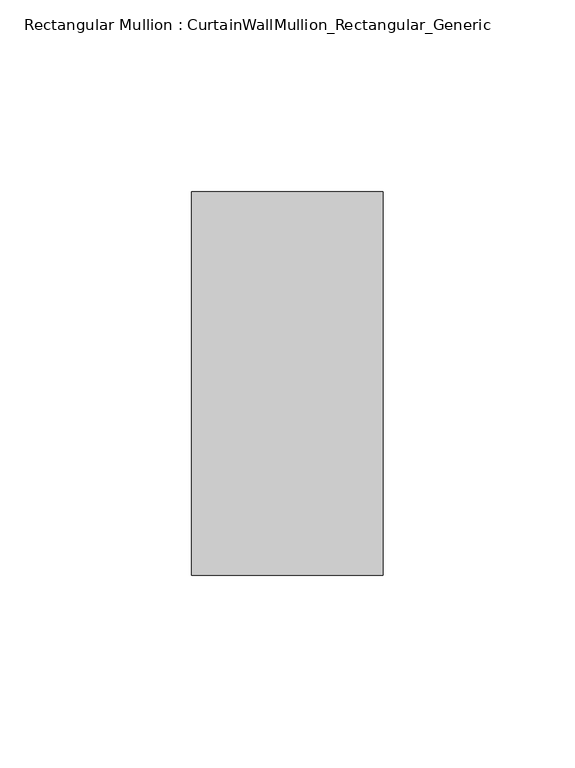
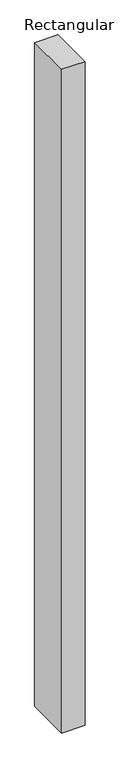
"""IFC4 building model written with IfcOpenShell, lengths in millimetres: member geometry, Rectangular Mullion : CurtainWallMullion_Rectangular_Generic."""

import ifcopenshell
import ifcopenshell.guid

model = None  # the IFC model being written
_history = None  # IfcOwnerHistory: only IFC2X3 demands one
_inside = {}  # id of a spatial element -> (the spatial element, [elements in it])
_under = {}  # id of a project, library or spatial element -> (it, [spatial elements below it])
_declared = {}  # id of a project -> (the project, [libraries it declares])
_typed = {}  # id of a type object -> (the type object, [elements of that type])
_made_of = {}  # id of a material, layer set ... -> (it, [elements and type objects made of it])


def new_model(schema):
    """Start an empty IFC model of exactly this schema.

    Asked for "IFC4X3", IfcOpenShell would pick the latest addendum, in which some entities
    have other attributes; the version numbers below select the first issue.
    IFC2X3 requires an IfcOwnerHistory on every rooted entity: one is made here for all.
    """
    global model, _history
    if schema == "IFC4X3":
        model = ifcopenshell.file(schema_version=(4, 3, 0, 0))
    else:
        model = ifcopenshell.file(schema=schema)
    _inside.clear()
    _under.clear()
    _declared.clear()
    _typed.clear()
    _made_of.clear()
    _history = None
    if model.schema == "IFC2X3":
        org = make("IfcOrganization", Name="unknown")
        user = make(
            "IfcPersonAndOrganization",
            ThePerson=make("IfcPerson", FamilyName="unknown"),
            TheOrganization=org,
        )
        app = make(
            "IfcApplication",
            ApplicationDeveloper=org,
            Version="unknown",
            ApplicationFullName="unknown",
            ApplicationIdentifier="unknown",
        )
        _history = make(
            "IfcOwnerHistory",
            OwningUser=user,
            OwningApplication=app,
            ChangeAction="ADDED",
            CreationDate=0,
        )
    return model


def make(cls, **values):
    """One entity of the class cls with the attributes given. An attribute that is None is left unset."""
    return model.create_entity(
        cls, **{name: value for name, value in values.items() if value is not None}
    )


def rooted(cls, **values):
    """An entity with a GlobalId (a new one), such as an element, a storey or a relation."""
    return make(cls, GlobalId=ifcopenshell.guid.new(), OwnerHistory=_history, **values)


def si_unit(unit_type, name, prefix=None):
    """IfcSIUnit, for example si_unit("LENGTHUNIT", "METRE", prefix="MILLI")."""
    return make("IfcSIUnit", UnitType=unit_type, Prefix=prefix, Name=name)


def assignment(units):
    """IfcUnitAssignment: the units of a project."""
    return None if units is None else make("IfcUnitAssignment", Units=units)


def point(xyz):
    """IfcCartesianPoint."""
    return None if xyz is None else make("IfcCartesianPoint", Coordinates=xyz)


def direction(xyz):
    """IfcDirection."""
    return None if xyz is None else make("IfcDirection", DirectionRatios=xyz)


def frame(location, z_axis=None, x_axis=None):
    """IfcAxis2Placement3D, a coordinate frame: its origin and axes. An axis left out is left unset."""
    return make(
        "IfcAxis2Placement3D",
        Location=point(location),
        Axis=direction(z_axis),
        RefDirection=direction(x_axis),
    )


def origin():
    """The frame at (0, 0, 0) with its axes left unset."""
    return frame((0.0, 0.0, 0.0))


def place(relative_to, where):
    """IfcLocalPlacement: puts the frame where relative to a parent placement (None: the world)."""
    return make(
        "IfcLocalPlacement", PlacementRelTo=relative_to, RelativePlacement=where
    )


def context(
    kind, dimensions, precision=None, world=None, true_north=None, identifier=None
):
    """IfcGeometricRepresentationContext, for example the 3D "Model" context."""
    return make(
        "IfcGeometricRepresentationContext",
        ContextIdentifier=identifier,
        ContextType=kind,
        CoordinateSpaceDimension=dimensions,
        Precision=precision,
        WorldCoordinateSystem=world,
        TrueNorth=true_north,
    )


def project(units=None, contexts=None):
    """IfcProject with its units and contexts."""
    return rooted(
        "IfcProject",
        Name="project",
        RepresentationContexts=contexts,
        UnitsInContext=assignment(units),
    )


def spatial(cls, under=None, at=None, **own):
    """A site, building, storey or space (cls), placed at a placement, below another one or the project."""
    s = rooted(cls, ObjectPlacement=at, **own)
    if under is not None:
        _under.setdefault(under.id(), (under, []))[1].append(s)
    return s


def polyline(points):
    """IfcPolyline through the points."""
    return make("IfcPolyline", Points=[point(p) for p in points])


def outline(outer, holes=None, kind="AREA"):
    """IfcArbitraryClosedProfileDef: a profile drawn as a closed curve; with holes, ...WithVoids."""
    if holes is None:
        return make("IfcArbitraryClosedProfileDef", ProfileType=kind, OuterCurve=outer)
    return make(
        "IfcArbitraryProfileDefWithVoids",
        ProfileType=kind,
        OuterCurve=outer,
        InnerCurves=holes,
    )


def extrude(swept, where, along, depth):
    """IfcExtrudedAreaSolid: the profile swept, set in the frame where, extruded along a direction by depth."""
    return make(
        "IfcExtrudedAreaSolid",
        SweptArea=swept,
        Position=where,
        ExtrudedDirection=direction(along),
        Depth=depth,
    )


def shape(context_of_items, identifier, shape_type, items):
    """IfcShapeRepresentation: the items that make up one representation, for example the "Body"."""
    return make(
        "IfcShapeRepresentation",
        ContextOfItems=context_of_items,
        RepresentationIdentifier=identifier,
        RepresentationType=shape_type,
        Items=items,
    )


def source(mapping_origin, context_of_items, identifier, shape_type, items):
    """IfcRepresentationMap: a shape defined once, which mapped items show again and again."""
    return make(
        "IfcRepresentationMap",
        MappingOrigin=mapping_origin,
        MappedRepresentation=shape(context_of_items, identifier, shape_type, items),
    )


def transform(
    local_origin,
    x_axis=None,
    y_axis=None,
    z_axis=None,
    scale=None,
    scale2=None,
    scale3=None,
    uniform=True,
):
    """IfcCartesianTransformationOperator3D, or its non-uniform kind. x_axis, y_axis, z_axis: its Axis1, 2, 3."""
    if uniform:
        return make(
            "IfcCartesianTransformationOperator3D",
            Axis1=direction(x_axis),
            Axis2=direction(y_axis),
            LocalOrigin=point(local_origin),
            Scale=scale,
            Axis3=direction(z_axis),
        )
    return make(
        "IfcCartesianTransformationOperator3DnonUniform",
        Axis1=direction(x_axis),
        Axis2=direction(y_axis),
        LocalOrigin=point(local_origin),
        Scale=scale,
        Axis3=direction(z_axis),
        Scale2=scale2,
        Scale3=scale3,
    )


def mapped(mapping_source, mapping_target):
    """IfcMappedItem: shows the shape of a source again, moved by a transform."""
    return make(
        "IfcMappedItem", MappingSource=mapping_source, MappingTarget=mapping_target
    )


def made_of(thing, what):
    """Note that an element or type object is made of a material, layer set ...; save() writes the relation."""
    if what is not None:
        _made_of.setdefault(what.id(), (what, []))[1].append(thing)
    return thing


def element(
    cls,
    number,
    at=None,
    inside=None,
    cuts=None,
    type_object=None,
    material=None,
    context=None,
    identifier="Body",
    shape_type=None,
    held_by="IfcProductDefinitionShape",
    body=None,
    shapes=None,
    **own,
):
    """One element of the class cls, such as IfcWall. Its Tag is "e" and its number.

    at: its placement. inside: the storey or other place that contains it. cuts: it is an
    opening in that element (IfcRelVoidsElement). A single representation is given by context,
    identifier, shape_type and body (its items); several are given by shapes. held_by: the class
    of the entity that holds the representations. save() writes the other relations.
    """
    e = rooted(cls, Tag="e%d" % number, ObjectPlacement=at, **own)
    if body is not None:
        shapes = [shape(context, identifier, shape_type, body)]
    if shapes is not None:
        e.Representation = make(held_by, Representations=shapes)
    if inside is not None:
        _inside.setdefault(inside.id(), (inside, []))[1].append(e)
    if cuts is not None:
        rooted(
            "IfcRelVoidsElement", RelatingBuildingElement=cuts, RelatedOpeningElement=e
        )
    if type_object is not None:
        _typed.setdefault(type_object.id(), (type_object, []))[1].append(e)
    return made_of(e, material)


def aggregate(whole, parts):
    """IfcRelAggregates: a whole, such as a stair, and the parts it consists of."""
    return rooted("IfcRelAggregates", RelatingObject=whole, RelatedObjects=parts)


def save(model, path):
    """Write the relations noted so far, then the file.

    IfcRelAggregates (storeys below a building ...), IfcRelContainedInSpatialStructure (elements
    in a storey), IfcRelDefinesByType, IfcRelAssociatesMaterial and IfcRelDeclares: one each for
    every whole, place, type object, material and project.
    """
    for whole, parts in _under.values():
        aggregate(whole, parts)
    for where, things in _inside.values():
        rooted(
            "IfcRelContainedInSpatialStructure",
            RelatedElements=things,
            RelatingStructure=where,
        )
    for kind, things in _typed.values():
        rooted("IfcRelDefinesByType", RelatedObjects=things, RelatingType=kind)
    for what, things in _made_of.values():
        rooted("IfcRelAssociatesMaterial", RelatedObjects=things, RelatingMaterial=what)
    for by, libraries in _declared.values():
        rooted("IfcRelDeclares", RelatingContext=by, RelatedDefinitions=libraries)
    model.write(path)


def rectangular_mullion_curtainwallmullion_rectangular_generic_c0600e94(model_context):
    return source(origin(), model_context, "Body", "SweptSolid", [
        extrude(outline(polyline([(25.0, 50.0), (25.0, -50.0), (-25.0, -50.0), (-25.0, 50.0), (25.0, 50.0)])), frame((0.0, 0.0, -1500.0), z_axis=(0.0, 0.0, 1.0), x_axis=(1.0, 0.0, 0.0)), (0.0, 0.0, 1.0), 1500.0),
    ])


if __name__ == "__main__":
    model = new_model("IFC4")
    model_context = context("Model", 3, world=origin())
    ifc_project = project(units=[si_unit("LENGTHUNIT", "METRE", prefix="MILLI")], contexts=[model_context])
    site = spatial("IfcSite", under=ifc_project)
    building = spatial("IfcBuilding", under=site)
    placement = place(None, origin())
    rectangular_mullion_curtainwallmullion_rectangular_generic_shape = rectangular_mullion_curtainwallmullion_rectangular_generic_c0600e94(model_context)
    element("IfcMember", 1, ObjectType="Rectangular Mullion : CurtainWallMullion_Rectangular_Generic", at=placement, inside=building, context=model_context, shape_type="MappedRepresentation", body=[
        mapped(rectangular_mullion_curtainwallmullion_rectangular_generic_shape, transform((0.0, 0.0, 0.0), x_axis=(1.0, 0.0, 0.0), y_axis=(0.0, 1.0, 0.0), z_axis=(0.0, 0.0, 1.0))),
    ])
    save(model, "model.ifc")
